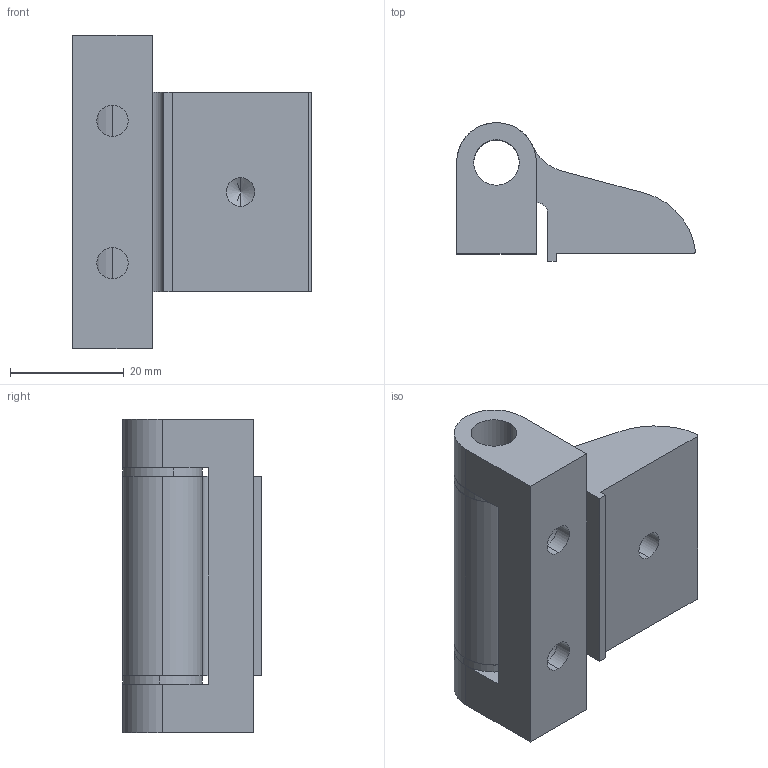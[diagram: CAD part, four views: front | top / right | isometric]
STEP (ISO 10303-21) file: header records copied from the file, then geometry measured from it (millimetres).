
FILE_DESCRIPTION (( 'STEP AP203' ), '1' );
FILE_NAME ('084.503.002.STEP', '2018-03-09T14:14:56', ( '' ), ( '' ), 'SwSTEP 2.0', 'SolidWorks 2016', '' );
FILE_SCHEMA (( 'CONFIG_CONTROL_DESIGN' ));
Length unit declared in the file: millimetre
Products named in the file (4): 084.503.002; CERNIERA FISSA MACAP PICCOLA; CERNIERA MOBILE MACAP PICCOLA; BOCCOLA
Assembly tree (4 placements, depth 2):
  084.503.002
    CERNIERA FISSA MACAP PICCOLA
    CERNIERA MOBILE MACAP PICCOLA
    BOCCOLA  x2
Bounding box: 41.94 x 24.3 x 55 mm (x, y, z)
Volume: 22022.2 mm3; surface area: 12078.1 mm2
Topology: 4 solids, 4 shells, 62 faces, 148 edges, 97 vertices
Faces by surface type: cylinder 36, plane 24, cone 2
Entity records: 2044 total; most frequent: DIRECTION 308, CARTESIAN_POINT 273, ORIENTED_EDGE 256, EDGE_CURVE 128, AXIS2_PLACEMENT_3D 120, VERTEX_POINT 85, EDGE_LOOP 69, LINE 68
